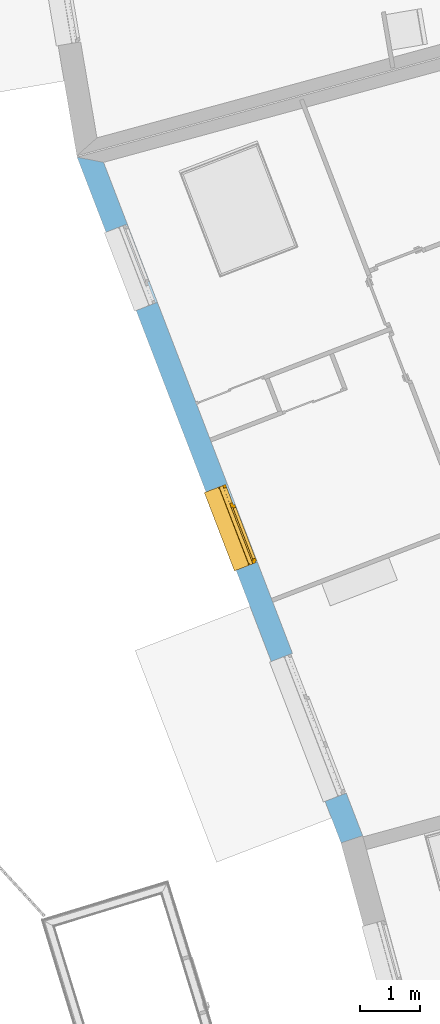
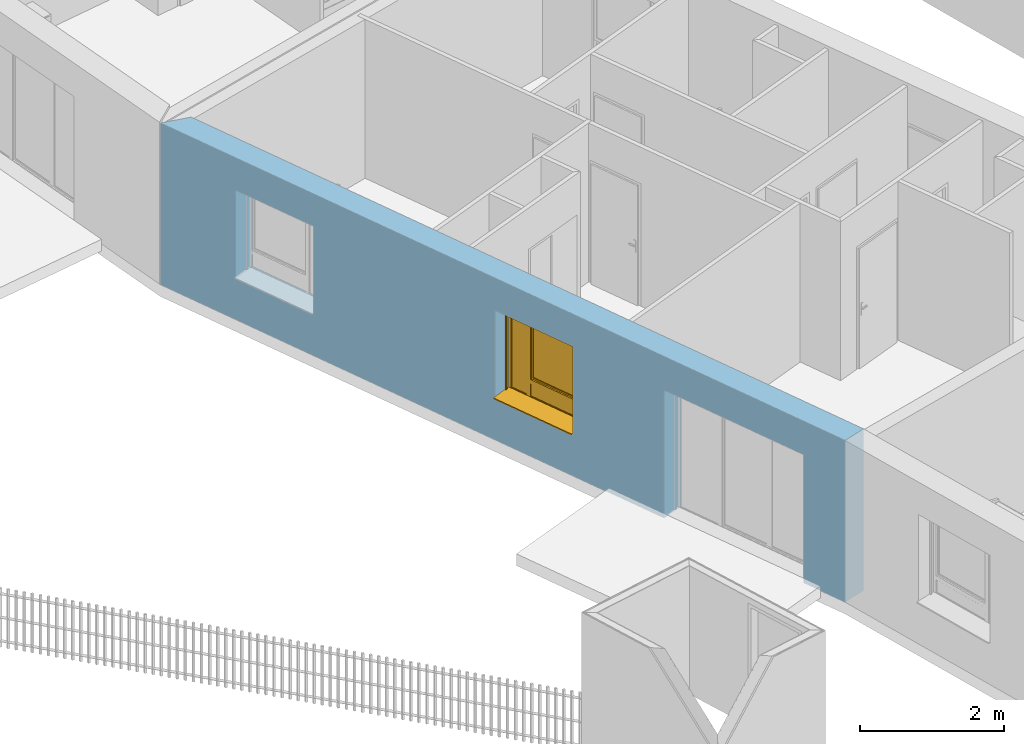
# One storey, part 75 of 195: 1 window, 3 openings, plus 1 element that does not belong to this part.
"""IFC2X3 building model written with IfcOpenShell, lengths in metres."""

from ifc_helpers import new_model, entity, si_unit, converted_unit, derived_unit, money_unit, direction, frame, origin_with_axes, place, context, subcontext, project, spatial, polyline, outline, extrude, open_shell, faceted_brep, surface_model, source, transform, mapped, material, layer, layer_set, layer_usage, type_object, element, fill, save


model = new_model("IFC2X3")

# Units and contexts
model_context = context("Model", 3, precision=1e-05, world=origin_with_axes(), true_north=direction((0.0, 1.0)))
body_context = subcontext(model_context, "Body", "Model", "MODEL_VIEW")
ifc_project = project(units=[si_unit("LENGTHUNIT", "METRE"), si_unit("AREAUNIT", "SQUARE_METRE"), si_unit("VOLUMEUNIT", "CUBIC_METRE"), converted_unit("PLANEANGLEUNIT", "DEGREE", entity("IfcPlaneAngleMeasure", 0.0174532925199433), si_unit("PLANEANGLEUNIT", "RADIAN"), dimensions=[0, 0, 0, 0, 0, 0, 0]), money_unit("CHF"), converted_unit("TIMEUNIT", "Year", entity("IfcTimeMeasure", 31557600.0), si_unit("TIMEUNIT", "SECOND"), dimensions=[0, 0, 1, 0, 0, 0, 0]), si_unit("MASSUNIT", "GRAM", prefix="KILO"), si_unit("THERMODYNAMICTEMPERATUREUNIT", "DEGREE_CELSIUS"), si_unit("LUMINOUSINTENSITYUNIT", "LUMEN"), si_unit("ENERGYUNIT", "JOULE", prefix="MEGA"), derived_unit("THERMALCONDUCTANCEUNIT", [(si_unit("POWERUNIT", "WATT"), 1), (si_unit("LENGTHUNIT", "METRE"), -1), (si_unit("THERMODYNAMICTEMPERATUREUNIT", "KELVIN"), -1)]), derived_unit("SPECIFICHEATCAPACITYUNIT", [(si_unit("ENERGYUNIT", "JOULE"), 1), (si_unit("MASSUNIT", "GRAM", prefix="KILO"), -1), (si_unit("THERMODYNAMICTEMPERATUREUNIT", "KELVIN"), -1)]), derived_unit("MASSDENSITYUNIT", [(si_unit("MASSUNIT", "GRAM", prefix="KILO"), 1), (si_unit("VOLUMEUNIT", "CUBIC_METRE"), -1)])], contexts=[model_context])

# Site, building, storey
site_placement = place(None, origin_with_axes())
site = spatial("IfcSite", under=ifc_project, at=site_placement, Name="Site", CompositionType="ELEMENT")
building_placement = place(site_placement, origin_with_axes())
building = spatial("IfcBuilding", under=site, at=building_placement, Name="Bâtiment", CompositionType="ELEMENT")
storey_placement = place(building_placement, origin_with_axes())
storey = spatial("IfcBuildingStorey", under=building, at=storey_placement, Name="rdc", CompositionType="ELEMENT", Elevation=0.0)

# Wall, openings, window
ifc_material_1 = material(Name="Parpaing 312445824")
ifc_layer_1 = layer(ifc_material_1, 0.22, ventilated="UNKNOWN")
ifc_material_2 = material(Name="Isolant styromousse 301821074")
ifc_layer_2 = layer(ifc_material_2, 0.16, ventilated="UNKNOWN")
ifc_layer_set = layer_set([ifc_layer_1, ifc_layer_2], Name="isol int 22+16 0836643197")
ifc_layer_usage = layer_usage(ifc_layer_set, "AXIS2", "POSITIVE", 0.0)
wall_type = type_object("IfcWallType", Name="isol int 22+16 0836643197 380", PredefinedType="NOTDEFINED")
wall_placement = place(storey_placement, frame((9581.97653269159, -1035.644242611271, 57.7), z_axis=(0.0, 0.0, 1.0), x_axis=(0.3591526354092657, -0.9332788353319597, 0.0)))
wall = element("IfcWallStandardCase", 1, at=wall_placement, inside=storey, type_object=wall_type, material=ifc_layer_usage, Name="Mur-113", context=body_context, shape_type="SweptSolid", body=[
    extrude(outline(polyline([(0.0, 0.0), (12.25544607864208, 0.0), (12.27474861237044, 0.3799999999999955), (0.2397397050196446, 0.3799999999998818), (0.0, 0.0)])), origin_with_axes(), (0.0, 0.0, 1.0), 2.75),
])
opening_1_placement = place(wall_placement, frame((2.041326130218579, 0.0, 0.7000000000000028), z_axis=(0.0, 0.0, 1.0), x_axis=(1.0, 0.0, 0.0)))
element("IfcOpeningElement", 2, at=opening_1_placement, cuts=wall, Name="Fen-045", context=body_context, shape_type="Brep", body=[
    faceted_brep([(-0.7000000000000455, 0.4799999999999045, 1.5), (0.6999999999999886, 0.4799999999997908, 1.5), (0.6999999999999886, 4.488897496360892, 1.5), (-0.6999999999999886, 4.488897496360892, 1.5), (-0.7000000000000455, 0.4799999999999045, 1.700000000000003), (0.6999999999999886, 0.4799999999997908, 1.700000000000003), (0.6999999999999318, 0.2999999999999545, 1.5), (0.6999999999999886, 0.2999999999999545, 0.0), (0.6999999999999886, 4.488897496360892, 0.0), (-0.6999999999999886, 4.488897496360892, 0.0), (-0.7000000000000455, 0.2999999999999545, 1.5), (-0.7000000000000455, 0.2999999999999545, 0.0), (-0.7000000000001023, 0.2199999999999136, 1.5), (-0.7000000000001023, 0.2199999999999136, 1.700000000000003), (0.6999999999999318, 0.2199999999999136, 1.700000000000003), (0.6999999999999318, 0.2199999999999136, 1.5), (0.6999999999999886, -4.108897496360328, 1.5), (0.6999999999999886, -4.108897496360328, 0.0), (-0.6999999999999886, -4.108897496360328, 0.0), (-0.6999999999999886, -4.108897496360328, 1.5)], [[[0, 1, 2, 3]], [[1, 0, 4, 5]], [[1, 6, 7, 8, 2]], [[2, 8, 9, 3]], [[10, 0, 3, 9, 11]], [[0, 10, 12, 13, 4]], [[14, 5, 4, 13]], [[6, 1, 5, 14, 15]], [[6, 15, 16, 17, 7]], [[7, 11, 9, 8]], [[12, 10, 11, 18, 19]], [[12, 15, 14, 13]], [[15, 12, 19, 16]], [[19, 18, 17, 16]], [[11, 7, 17, 18]]]),
])
opening_2_placement = place(wall_placement, frame((10.26361787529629, 0.0, 0.0), z_axis=(0.0, 0.0, 1.0), x_axis=(1.0, 0.0, 0.0)))
element("IfcOpeningElement", 3, at=opening_2_placement, cuts=wall, Name="Fen-045", context=body_context, shape_type="Brep", body=[
    faceted_brep([(-1.25, 0.4800000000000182, 2.18), (1.25, 0.4800000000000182, 2.18), (1.250000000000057, 4.488897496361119, 2.18), (-1.25, 4.488897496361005, 2.18), (-1.25, 0.4800000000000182, 2.380000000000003), (1.25, 0.4800000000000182, 2.380000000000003), (1.25, 0.3000000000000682, 2.18), (1.25, 0.3000000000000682, 0.0), (1.250000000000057, 4.488897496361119, 0.0), (-1.25, 4.488897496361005, 0.0), (-1.25, 0.3000000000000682, 2.18), (-1.25, 0.3000000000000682, 0.0), (-1.25, 0.2200000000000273, 2.18), (-1.25, 0.2200000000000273, 2.380000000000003), (1.25, 0.220000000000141, 2.380000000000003), (1.25, 0.220000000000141, 2.18), (1.25, -4.108897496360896, 2.18), (1.25, -4.108897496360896, 0.0), (-1.25, -4.108897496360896, 0.0), (-1.25, -4.108897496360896, 2.18)], [[[0, 1, 2, 3]], [[1, 0, 4, 5]], [[1, 6, 7, 8, 2]], [[2, 8, 9, 3]], [[10, 0, 3, 9, 11]], [[0, 10, 12, 13, 4]], [[4, 13, 14, 5]], [[6, 1, 5, 14, 15]], [[6, 15, 16, 17, 7]], [[7, 11, 9, 8]], [[12, 10, 11, 18, 19]], [[12, 15, 14, 13]], [[15, 12, 19, 16]], [[19, 18, 17, 16]], [[11, 7, 17, 18]]]),
])
opening_3_placement = place(wall_placement, frame((6.684094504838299, 0.0, 0.7000000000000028), z_axis=(0.0, 0.0, 1.0), x_axis=(1.0, 0.0, 0.0)))
opening_3 = element("IfcOpeningElement", 4, at=opening_3_placement, cuts=wall, Name="Fen-045", context=body_context, shape_type="Brep", body=[
    faceted_brep([(-0.6999999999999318, 0.4800000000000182, 1.5), (0.7000000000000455, 0.4800000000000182, 1.5), (0.7000000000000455, 4.488897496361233, 1.5), (-0.6999999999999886, 4.488897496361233, 1.5), (-0.6999999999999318, 0.4800000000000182, 1.700000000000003), (0.7000000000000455, 0.4800000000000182, 1.700000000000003), (0.6999999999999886, 0.3000000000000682, 1.5), (0.6999999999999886, 0.3000000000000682, 0.0), (0.7000000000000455, 4.488897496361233, 0.0), (-0.6999999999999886, 4.488897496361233, 0.0), (-0.6999999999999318, 0.2999999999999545, 1.5), (-0.6999999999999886, 0.2999999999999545, 0.0), (-0.6999999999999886, 0.2200000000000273, 1.5), (-0.6999999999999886, 0.2200000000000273, 1.700000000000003), (0.7000000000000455, 0.2200000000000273, 1.700000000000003), (0.7000000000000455, 0.2200000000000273, 1.5), (0.6999999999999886, -4.108897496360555, 1.5), (0.6999999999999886, -4.108897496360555, 0.0), (-0.6999999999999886, -4.108897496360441, 0.0), (-0.6999999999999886, -4.108897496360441, 1.5)], [[[0, 1, 2, 3]], [[1, 0, 4, 5]], [[1, 6, 7, 8, 2]], [[2, 8, 9, 3]], [[10, 0, 3, 9, 11]], [[0, 10, 12, 13, 4]], [[4, 13, 14, 5]], [[6, 1, 5, 14, 15]], [[6, 15, 16, 17, 7]], [[7, 11, 9, 8]], [[12, 10, 11, 18, 19]], [[12, 15, 14, 13]], [[15, 12, 19, 16]], [[19, 18, 17, 16]], [[11, 7, 17, 18]]]),
])
window_style = type_object("IfcWindowStyle", Name="Fenêtre variable 27", ConstructionType="NOTDEFINED", OperationType="TRIPLE_PANEL_LEFT", ParameterTakesPrecedence=False, Sizeable=False)
shared_shape = source(origin_with_axes(), body_context, "Body", "SurfaceModel", [
    surface_model("IfcShellBasedSurfaceModel", [(0.7, -0.05100000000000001, 0.05), (-0.7, -0.05100000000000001, 0.05000000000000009), (-0.7, -0.05100000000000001, 0.04000000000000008), (0.7, -0.05100000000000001, 0.04), (-0.7, -0.3799999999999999, 0.02900000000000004), (0.7, -0.3799999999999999, 0.02899999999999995), (-0.7, -0.3799999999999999, 0.00900000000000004), (0.7, -0.3799999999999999, 0.008999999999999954), (-0.7, -0.3699999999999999, 0.01900000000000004), (0.7, -0.3699999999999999, 0.01899999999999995)], [open_shell([[[0, 1, 2, 3]], [[3, 2, 4, 5]], [[5, 4, 6, 7]], [[7, 6, 8, 9]]])]),
    faceted_brep([(0.7, -0.13, 1.7), (0.7, 0.13, 1.7), (0.697, 0.13, 1.7), (0.697, -0.13, 1.7), (0.7, -0.13, 1.5), (0.7, 0.13, 1.5), (0.697, 0.13, 1.5), (0.697, -0.13, 1.5)], [[[0, 1, 2, 3]], [[0, 4, 5, 1]], [[1, 5, 6, 2]], [[3, 2, 6, 7]], [[4, 0, 3, 7]], [[5, 4, 7, 6]]]),
    faceted_brep([(-0.6970000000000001, -0.1299999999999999, 1.7), (-0.6970000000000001, 0.1300000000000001, 1.7), (-0.7000000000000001, 0.1300000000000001, 1.7), (-0.7000000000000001, -0.1299999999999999, 1.7), (-0.6970000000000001, -0.1299999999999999, 1.5), (-0.6970000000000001, 0.1300000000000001, 1.5), (-0.7000000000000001, 0.1300000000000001, 1.5), (-0.7000000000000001, -0.1299999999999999, 1.5)], [[[0, 1, 2, 3]], [[0, 4, 5, 1]], [[1, 5, 6, 2]], [[3, 2, 6, 7]], [[4, 0, 3, 7]], [[5, 4, 7, 6]]]),
    faceted_brep([(0.697, -0.13, 1.5), (0.697, -0.13, 1.7), (-0.697, -0.1299999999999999, 1.7), (-0.697, -0.1299999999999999, 1.5), (0.697, -0.127, 1.5), (0.697, -0.127, 1.697), (0.697, 0.127, 1.697), (0.697, 0.127, 1.503), (0.697, -0.108, 1.503), (0.697, -0.108, 1.5), (0.697, 0.13, 1.5), (0.697, 0.13, 1.7), (-0.697, 0.1300000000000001, 1.7), (-0.697, 0.1300000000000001, 1.5), (-0.697, -0.1079999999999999, 1.5), (-0.697, -0.1079999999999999, 1.503), (-0.697, 0.1270000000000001, 1.503), (-0.697, 0.1270000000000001, 1.697), (-0.697, -0.1269999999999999, 1.697), (-0.697, -0.1269999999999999, 1.5)], [[[0, 1, 2, 3]], [[0, 4, 5, 6, 7, 8, 9, 10, 11, 1]], [[1, 11, 12, 2]], [[3, 2, 12, 13, 14, 15, 16, 17, 18, 19]], [[4, 0, 3, 19]], [[5, 4, 19, 18]], [[6, 5, 18, 17]], [[7, 6, 17, 16]], [[8, 7, 16, 15]], [[9, 8, 15, 14]], [[10, 9, 14, 13]], [[11, 10, 13, 12]]]),
    faceted_brep([(0.694, -0.08075423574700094, 1.585760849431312), (0.694, -0.07705479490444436, 1.571954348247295), (0.694, -0.07101408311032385, 1.559), (0.694, -0.06281564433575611, 1.547291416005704), (0.694, -0.05270858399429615, 1.537184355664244), (0.694, -0.04099999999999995, 1.528985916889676), (0.694, -0.02804565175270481, 1.522945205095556), (0.694, -0.01423915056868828, 1.519245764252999), (0.694, 0.0, 1.518), (0.694, 0.01423915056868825, 1.519245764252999), (0.694, 0.02804565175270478, 1.522945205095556), (0.694, 0.04099999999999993, 1.528985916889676), (0.694, 0.05270858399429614, 1.537184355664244), (0.694, 0.06281564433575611, 1.547291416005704), (0.694, 0.07101408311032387, 1.559), (0.694, 0.07705479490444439, 1.571954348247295), (0.694, 0.08075423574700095, 1.585760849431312), (0.694, 0.0819999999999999, 1.6), (0.694, 0.08075423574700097, 1.614239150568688), (0.694, 0.0770547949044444, 1.628045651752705), (0.694, 0.07101408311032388, 1.641), (0.694, 0.06281564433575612, 1.652708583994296), (0.694, 0.05270858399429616, 1.662815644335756), (0.694, 0.04099999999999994, 1.671014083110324), (0.694, 0.02804565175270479, 1.677054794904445), (0.694, 0.01423915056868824, 1.680754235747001), (0.694, 0.0, 1.682), (0.694, -0.01423915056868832, 1.680754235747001), (0.694, -0.02804565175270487, 1.677054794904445), (0.694, -0.04100000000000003, 1.671014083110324), (0.694, -0.05270858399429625, 1.662815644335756), (0.694, -0.06281564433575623, 1.652708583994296), (0.694, -0.07101408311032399, 1.641), (0.694, -0.07705479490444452, 1.628045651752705), (0.694, -0.0807542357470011, 1.614239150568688), (0.694, -0.08200000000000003, 1.6), (-0.694, -0.08075423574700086, 1.585760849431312), (-0.694, -0.07705479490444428, 1.571954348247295), (-0.694, -0.07101408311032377, 1.559), (-0.694, -0.06281564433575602, 1.547291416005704), (-0.694, -0.05270858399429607, 1.537184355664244), (-0.694, -0.04099999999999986, 1.528985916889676), (-0.694, -0.02804565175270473, 1.522945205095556), (-0.694, -0.0142391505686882, 1.519245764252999), (-0.694, 0.0, 1.518), (-0.694, 0.01423915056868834, 1.519245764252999), (-0.694, 0.02804565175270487, 1.522945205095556), (-0.694, 0.04100000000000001, 1.528985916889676), (-0.694, 0.05270858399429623, 1.537184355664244), (-0.694, 0.06281564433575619, 1.547291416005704), (-0.694, 0.07101408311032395, 1.559), (-0.694, 0.07705479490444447, 1.571954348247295), (-0.694, 0.08075423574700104, 1.585760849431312), (-0.694, 0.08199999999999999, 1.6), (-0.694, 0.08075423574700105, 1.614239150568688), (-0.694, 0.07705479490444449, 1.628045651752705), (-0.694, 0.07101408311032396, 1.641), (-0.694, 0.0628156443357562, 1.652708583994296), (-0.694, 0.05270858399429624, 1.662815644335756), (-0.694, 0.04100000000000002, 1.671014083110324), (-0.694, 0.02804565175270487, 1.677054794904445), (-0.694, 0.01423915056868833, 1.680754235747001), (-0.694, 0.0, 1.682), (-0.694, -0.01423915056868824, 1.680754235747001), (-0.694, -0.02804565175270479, 1.677054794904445), (-0.694, -0.04099999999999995, 1.671014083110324), (-0.694, -0.05270858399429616, 1.662815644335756), (-0.694, -0.06281564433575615, 1.652708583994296), (-0.694, -0.07101408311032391, 1.641), (-0.694, -0.07705479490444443, 1.628045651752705), (-0.694, -0.08075423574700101, 1.614239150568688), (-0.694, -0.08199999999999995, 1.6)], [[[0, 1, 2, 3, 4, 5, 6, 7, 8, 9, 10, 11, 12, 13, 14, 15, 16, 17, 18, 19, 20, 21, 22, 23, 24, 25, 26, 27, 28, 29, 30, 31, 32, 33, 34, 35]], [[1, 0, 36, 37]], [[2, 1, 37, 38]], [[3, 2, 38, 39]], [[4, 3, 39, 40]], [[5, 4, 40, 41]], [[6, 5, 41, 42]], [[7, 6, 42, 43]], [[8, 7, 43, 44]], [[9, 8, 44, 45]], [[10, 9, 45, 46]], [[11, 10, 46, 47]], [[12, 11, 47, 48]], [[13, 12, 48, 49]], [[14, 13, 49, 50]], [[15, 14, 50, 51]], [[16, 15, 51, 52]], [[17, 16, 52, 53]], [[18, 17, 53, 54]], [[19, 18, 54, 55]], [[20, 19, 55, 56]], [[21, 20, 56, 57]], [[22, 21, 57, 58]], [[23, 22, 58, 59]], [[24, 23, 59, 60]], [[25, 24, 60, 61]], [[26, 25, 61, 62]], [[27, 26, 62, 63]], [[28, 27, 63, 64]], [[29, 28, 64, 65]], [[30, 29, 65, 66]], [[31, 30, 66, 67]], [[32, 31, 67, 68]], [[33, 32, 68, 69]], [[34, 33, 69, 70]], [[35, 34, 70, 71]], [[0, 35, 71, 36]], [[36, 71, 70, 69, 68, 67, 66, 65, 64, 63, 62, 61, 60, 59, 58, 57, 56, 55, 54, 53, 52, 51, 50, 49, 48, 47, 46, 45, 44, 43, 42, 41, 40, 39, 38, 37]]]),
    faceted_brep([(-0.7, -0.105, 0.03), (-0.7, -0.13, 0.03), (-0.7, -0.1299999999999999, 1.5), (-0.7, -0.1049999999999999, 1.5), (-0.6749999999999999, -0.105, 0.03), (-0.6749999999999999, -0.108, 0.03), (-0.697, -0.108, 0.03), (-0.697, -0.127, 0.03), (-0.6749999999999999, -0.127, 0.03), (-0.6749999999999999, -0.13, 0.03), (-0.6749999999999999, -0.1299999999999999, 1.5), (-0.6749999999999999, -0.1269999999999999, 1.5), (-0.697, -0.1269999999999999, 1.5), (-0.697, -0.1079999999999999, 1.5), (-0.6749999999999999, -0.1079999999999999, 1.5), (-0.6749999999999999, -0.1049999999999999, 1.5)], [[[0, 1, 2, 3]], [[0, 4, 5, 6, 7, 8, 9, 1]], [[1, 9, 10, 2]], [[3, 2, 10, 11, 12, 13, 14, 15]], [[4, 0, 3, 15]], [[5, 4, 15, 14]], [[6, 5, 14, 13]], [[7, 6, 13, 12]], [[8, 7, 12, 11]], [[9, 8, 11, 10]]]),
    faceted_brep([(0.7, -0.105, 0.03), (0.7, -0.1049999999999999, 1.5), (0.7, -0.1299999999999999, 1.5), (0.7, -0.13, 0.03), (0.6749999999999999, -0.105, 0.03), (0.6749999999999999, -0.1049999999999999, 1.5), (0.6749999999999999, -0.1079999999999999, 1.5), (0.697, -0.1079999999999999, 1.5), (0.697, -0.1269999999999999, 1.5), (0.6749999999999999, -0.1269999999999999, 1.5), (0.6749999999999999, -0.1299999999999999, 1.5), (0.6749999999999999, -0.13, 0.03), (0.6749999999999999, -0.127, 0.03), (0.697, -0.127, 0.03), (0.697, -0.108, 0.03), (0.6749999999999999, -0.108, 0.03)], [[[0, 1, 2, 3]], [[4, 5, 1, 0]], [[1, 5, 6, 7, 8, 9, 10, 2]], [[3, 2, 10, 11]], [[0, 3, 11, 12, 13, 14, 15, 4]], [[15, 6, 5, 4]], [[14, 7, 6, 15]], [[13, 8, 7, 14]], [[12, 9, 8, 13]], [[11, 10, 9, 12]]]),
    surface_model("IfcShellBasedSurfaceModel", [(0.697, -0.115, 1.6), (-0.697, -0.1149999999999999, 1.6), (-0.697, -0.12, 1.6), (0.697, -0.12, 1.6), (0.697, -0.115, 1.6), (0.697, -0.12, 1.6), (-0.697, -0.1199999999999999, 1.6), (-0.697, -0.1149999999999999, 1.6)], [open_shell([[[0, 1, 2, 3]], [[4, 5, 6, 7]]])]),
    faceted_brep([(0.697, -0.115, 1.6), (0.697, -0.1166666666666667, 1.583333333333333), (-0.697, -0.1166666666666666, 1.583333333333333), (-0.697, -0.1149999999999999, 1.6), (0.697, -0.12, 1.6), (0.697, -0.1216666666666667, 1.583333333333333), (0.697, -0.1216666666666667, 1.566666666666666), (0.697, -0.12, 1.55), (0.697, -0.115, 1.55), (0.697, -0.1166666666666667, 1.566666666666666), (-0.697, -0.1166666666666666, 1.566666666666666), (-0.697, -0.1149999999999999, 1.55), (-0.697, -0.1199999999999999, 1.55), (-0.697, -0.1216666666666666, 1.566666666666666), (-0.697, -0.1216666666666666, 1.583333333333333), (-0.697, -0.1199999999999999, 1.6)], [[[0, 1, 2, 3]], [[0, 4, 5, 6, 7, 8, 9, 1]], [[1, 9, 10, 2]], [[3, 2, 10, 11, 12, 13, 14, 15]], [[4, 0, 3, 15]], [[5, 4, 15, 14]], [[6, 5, 14, 13]], [[7, 6, 13, 12]], [[8, 7, 12, 11]], [[9, 8, 11, 10]]]),
    faceted_brep([(0.697, -0.115, 1.55), (0.697, -0.1166666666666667, 1.533333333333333), (-0.697, -0.1166666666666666, 1.533333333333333), (-0.697, -0.1149999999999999, 1.55), (0.697, -0.12, 1.55), (0.697, -0.1216666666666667, 1.533333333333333), (0.697, -0.1216666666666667, 1.516666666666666), (0.697, -0.12, 1.5), (0.697, -0.115, 1.5), (0.697, -0.1166666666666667, 1.516666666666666), (-0.697, -0.1166666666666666, 1.516666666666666), (-0.697, -0.1149999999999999, 1.5), (-0.697, -0.1199999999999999, 1.5), (-0.697, -0.1216666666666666, 1.516666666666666), (-0.697, -0.1216666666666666, 1.533333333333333), (-0.697, -0.1199999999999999, 1.55)], [[[0, 1, 2, 3]], [[0, 4, 5, 6, 7, 8, 9, 1]], [[1, 9, 10, 2]], [[3, 2, 10, 11, 12, 13, 14, 15]], [[4, 0, 3, 15]], [[5, 4, 15, 14]], [[6, 5, 14, 13]], [[7, 6, 13, 12]], [[8, 7, 12, 11]], [[9, 8, 11, 10]]]),
    faceted_brep([(0.6749999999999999, 0.0, 1.45), (0.6749999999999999, -0.02500000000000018, 1.45), (0.6499999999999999, -0.02500000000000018, 1.45), (0.6499999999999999, -0.05000000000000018, 1.45), (0.7, -0.05000000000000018, 1.45), (0.7, 0.0, 1.45), (0.6749999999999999, 0.0, 0.3099999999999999), (0.6749999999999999, -0.02500000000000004, 0.3099999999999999), (0.6499999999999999, -0.02500000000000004, 0.335), (0.6499999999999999, -0.02500000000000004, 0.3099999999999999), (0.6499999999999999, -0.05000000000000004, 0.335), (0.6499999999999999, -0.05000000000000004, 0.265), (0.6499999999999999, -0.05000000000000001, 0.05000000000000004), (0.7, -0.05000000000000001, 0.05000000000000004), (0.7, 0.0, 0.05000000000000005), (0.6499999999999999, 0.0, 0.05000000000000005), (0.6499999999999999, 0.0, 0.265), (0.6499999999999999, 0.0, 0.3099999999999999)], [[[0, 1, 2, 3, 4, 5]], [[1, 0, 6, 7]], [[8, 2, 1, 7, 9]], [[2, 8, 10, 3]], [[10, 11, 12, 13, 4, 3]], [[5, 4, 13, 14]], [[6, 0, 5, 14, 15, 16, 17]], [[6, 17, 9, 7]], [[9, 17, 16, 11, 10, 8]], [[15, 12, 11, 16]], [[14, 13, 12, 15]]]),
    faceted_brep([(-0.3068894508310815, -0.02500000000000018, 1.45), (-0.3318894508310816, -0.02500000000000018, 1.45), (-0.3318894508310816, 0.0, 1.45), (-0.3768894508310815, 0.0, 1.45), (-0.3768894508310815, -0.05000000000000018, 1.45), (-0.3068894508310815, -0.05000000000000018, 1.45), (-0.3068894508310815, -0.02500000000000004, 0.335), (-0.3068894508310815, -0.02500000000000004, 0.3099999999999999), (-0.3318894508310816, -0.02500000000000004, 0.3099999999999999), (-0.3318894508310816, 0.0, 0.3099999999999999), (-0.3068894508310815, 0.0, 0.3099999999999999), (-0.3068894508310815, 0.0, 0.265), (-0.3068894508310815, 0.0, 0.05000000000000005), (-0.3768894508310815, 0.0, 0.05000000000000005), (-0.3768894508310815, -0.05000000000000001, 0.05000000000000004), (-0.3068894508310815, -0.05000000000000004, 0.265), (-0.3068894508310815, -0.05000000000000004, 0.335), (-0.3068894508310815, -0.05000000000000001, 0.05000000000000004)], [[[0, 1, 2, 3, 4, 5]], [[1, 0, 6, 7, 8]], [[9, 2, 1, 8]], [[9, 10, 11, 12, 13, 3, 2]], [[13, 14, 4, 3]], [[15, 16, 5, 4, 14, 17]], [[6, 0, 5, 16]], [[7, 6, 16, 15, 11, 10]], [[10, 9, 8, 7]], [[11, 15, 17, 12]], [[12, 17, 14, 13]]]),
    faceted_brep([(0.6499999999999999, -0.02500000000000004, 0.335), (-0.3068894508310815, -0.02500000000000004, 0.335), (-0.3068894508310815, -0.05000000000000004, 0.335), (0.6499999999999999, -0.05000000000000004, 0.335), (-0.3068894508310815, -0.02500000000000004, 0.3099999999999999), (0.6499999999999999, -0.02500000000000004, 0.3099999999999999), (-0.3068894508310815, 0.0, 0.3099999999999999), (-0.3068894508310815, 0.0, 0.265), (-0.3068894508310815, -0.05000000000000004, 0.265), (0.6499999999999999, -0.05000000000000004, 0.265), (0.6499999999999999, 0.0, 0.265), (0.6499999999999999, 0.0, 0.3099999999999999)], [[[0, 1, 2, 3]], [[4, 1, 0, 5]], [[4, 6, 7, 8, 2, 1]], [[2, 8, 9, 3]], [[5, 0, 3, 9, 10, 11]], [[11, 6, 4, 5]], [[6, 11, 10, 7]], [[10, 9, 8, 7]]]),
    faceted_brep([(0.6749999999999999, 0.0, 1.45), (0.6749999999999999, 0.0, 1.475), (-0.3318894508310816, 0.0, 1.475), (-0.3318894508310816, 0.0, 1.45), (-0.3768894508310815, 0.0, 1.45), (-0.6499999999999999, 0.0, 1.45), (-0.7, 0.0, 1.45), (-0.7, 0.0, 1.5), (0.7, 0.0, 1.5), (0.7, 0.0, 1.45), (0.6749999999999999, -0.02500000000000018, 1.45), (0.6749999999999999, -0.02500000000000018, 1.475), (-0.3318894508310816, -0.02500000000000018, 1.475), (-0.3318894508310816, -0.02500000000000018, 1.45), (-0.3068894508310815, -0.02500000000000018, 1.45), (-0.3068894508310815, -0.05000000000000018, 1.45), (-0.3768894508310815, -0.05000000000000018, 1.45), (-0.6499999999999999, -0.05000000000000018, 1.45), (-0.7, -0.05000000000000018, 1.45), (-0.7, -0.05000000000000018, 1.5), (0.7, -0.05000000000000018, 1.5), (0.7, -0.05000000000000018, 1.45), (0.6499999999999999, -0.05000000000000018, 1.45), (0.6499999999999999, -0.02500000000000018, 1.45)], [[[0, 1, 2, 3, 4, 5, 6, 7, 8, 9]], [[1, 0, 10, 11]], [[2, 1, 11, 12]], [[3, 2, 12, 13]], [[13, 14, 15, 16, 4, 3]], [[4, 16, 17, 5]], [[5, 17, 18, 6]], [[6, 18, 19, 7]], [[7, 19, 20, 8]], [[8, 20, 21, 9]], [[10, 0, 9, 21, 22, 23]], [[14, 13, 12, 11, 10, 23]], [[14, 23, 22, 15]], [[16, 15, 22, 21, 20, 19, 18, 17]]]),
    faceted_brep([(-0.6499999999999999, -0.05000000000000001, 0.05), (-0.7, -0.05000000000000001, 0.05), (-0.7, 0.0, 0.05000000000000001), (-0.6499999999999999, 0.0, 0.05000000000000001), (-0.6499999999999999, -0.05000000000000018, 1.45), (-0.7, -0.05000000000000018, 1.45), (-0.7, 0.0, 1.45), (-0.6499999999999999, 0.0, 1.45)], [[[0, 1, 2, 3]], [[0, 4, 5, 1]], [[1, 5, 6, 2]], [[3, 2, 6, 7]], [[4, 0, 3, 7]], [[5, 4, 7, 6]]]),
    faceted_brep([(0.6499999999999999, -0.05000000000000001, 0.05), (0.7, -0.05000000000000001, 0.05), (0.7, 0.0, 0.05000000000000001), (0.6499999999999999, 0.0, 0.05000000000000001), (-0.3068894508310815, -0.05000000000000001, 0.05), (-0.3768894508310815, -0.05000000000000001, 0.05), (-0.6499999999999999, -0.05000000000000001, 0.05), (-0.7, -0.05000000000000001, 0.05), (-0.7, -0.05, 0.0), (0.7, -0.05, 0.0), (0.7, 0.0, 0.0), (-0.7, 0.0, 0.0), (-0.7, 0.0, 0.05000000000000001), (-0.6499999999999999, 0.0, 0.05000000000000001), (-0.3768894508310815, 0.0, 0.05000000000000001), (-0.3068894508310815, 0.0, 0.05000000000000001)], [[[0, 1, 2, 3]], [[0, 4, 5, 6, 7, 8, 9, 1]], [[1, 9, 10, 2]], [[3, 2, 10, 11, 12, 13, 14, 15]], [[4, 0, 3, 15]], [[5, 4, 15, 14]], [[6, 5, 14, 13]], [[7, 6, 13, 12]], [[8, 7, 12, 11]], [[9, 8, 11, 10]]]),
    faceted_brep([(0.625, -0.02500000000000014, 1.425), (0.6749999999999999, -0.02500000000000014, 1.425), (0.6749999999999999, 0.02499999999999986, 1.425), (0.625, 0.02499999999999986, 1.425), (0.625, -0.02500000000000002, 0.3599999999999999), (0.6749999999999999, -0.02500000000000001, 0.3599999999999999), (0.6749999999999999, 0.02499999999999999, 0.3599999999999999), (0.625, 0.02499999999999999, 0.3599999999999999)], [[[0, 1, 2, 3]], [[0, 4, 5, 1]], [[1, 5, 6, 2]], [[3, 2, 6, 7]], [[4, 0, 3, 7]], [[5, 4, 7, 6]]]),
    faceted_brep([(-0.2818894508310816, -0.02500000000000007, 0.3599999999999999), (-0.3318894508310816, -0.02500000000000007, 0.3599999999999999), (-0.3318894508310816, 0.02499999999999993, 0.3599999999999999), (-0.2818894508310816, 0.02499999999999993, 0.3599999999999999), (-0.2818894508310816, -0.0250000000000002, 1.425), (-0.3318894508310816, -0.0250000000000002, 1.425), (-0.3318894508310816, 0.0249999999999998, 1.425), (-0.2818894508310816, 0.0249999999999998, 1.425)], [[[0, 1, 2, 3]], [[0, 4, 5, 1]], [[1, 5, 6, 2]], [[3, 2, 6, 7]], [[4, 0, 3, 7]], [[5, 4, 7, 6]]]),
    faceted_brep([(-0.3318894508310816, -0.02500000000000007, 0.3099999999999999), (-0.3318894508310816, -0.02500000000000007, 0.3599999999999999), (-0.3318894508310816, 0.02499999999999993, 0.3599999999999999), (-0.3318894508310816, 0.02499999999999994, 0.3099999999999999), (0.6749999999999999, -0.025, 0.3099999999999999), (0.6749999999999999, -0.02500000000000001, 0.3599999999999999), (0.625, -0.02500000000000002, 0.3599999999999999), (-0.2818894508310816, -0.02500000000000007, 0.3599999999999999), (-0.2818894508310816, 0.02499999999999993, 0.3599999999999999), (0.625, 0.02499999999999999, 0.3599999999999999), (0.6749999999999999, 0.02499999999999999, 0.3599999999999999), (0.6749999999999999, 0.02499999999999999, 0.3099999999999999)], [[[0, 1, 2, 3]], [[0, 4, 5, 6, 7, 1]], [[1, 7, 8, 2]], [[3, 2, 8, 9, 10, 11]], [[4, 0, 3, 11]], [[5, 4, 11, 10]], [[6, 5, 10, 9]], [[7, 6, 9, 8]]]),
    faceted_brep([(0.6749999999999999, -0.02500000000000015, 1.475), (0.6749999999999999, -0.02500000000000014, 1.425), (0.6749999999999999, 0.02499999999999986, 1.425), (0.6749999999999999, 0.02499999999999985, 1.475), (-0.3318894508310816, -0.02500000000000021, 1.475), (-0.3318894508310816, -0.0250000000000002, 1.425), (-0.2818894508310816, -0.0250000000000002, 1.425), (0.625, -0.02500000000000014, 1.425), (0.625, 0.02499999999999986, 1.425), (-0.2818894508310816, 0.0249999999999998, 1.425), (-0.3318894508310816, 0.0249999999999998, 1.425), (-0.3318894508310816, 0.02499999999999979, 1.475)], [[[0, 1, 2, 3]], [[0, 4, 5, 6, 7, 1]], [[1, 7, 8, 2]], [[3, 2, 8, 9, 10, 11]], [[4, 0, 3, 11]], [[5, 4, 11, 10]], [[6, 5, 10, 9]], [[7, 6, 9, 8]]]),
    surface_model("IfcShellBasedSurfaceModel", [(0.625, -0.01000000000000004, 0.3599999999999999), (0.625, -0.01000000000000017, 1.425), (-0.2818894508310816, -0.01000000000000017, 1.425), (-0.2818894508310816, -0.01000000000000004, 0.3599999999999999)], [open_shell([[[0, 1, 2, 3]]])]),
    surface_model("IfcShellBasedSurfaceModel", [(0.625, 0.009999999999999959, 0.3599999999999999), (-0.2818894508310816, 0.009999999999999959, 0.3599999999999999), (-0.2818894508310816, 0.00999999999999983, 1.425), (0.625, 0.00999999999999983, 1.425)], [open_shell([[[0, 1, 2, 3]]])]),
    surface_model("IfcShellBasedSurfaceModel", [(-0.3768894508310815, -0.035, 0.05), (-0.3768894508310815, -0.03500000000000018, 1.45), (-0.65, -0.03500000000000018, 1.45), (-0.65, -0.035, 0.05)], [open_shell([[[0, 1, 2, 3]]])]),
    surface_model("IfcShellBasedSurfaceModel", [(-0.3768894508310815, -0.015, 0.05), (-0.65, -0.015, 0.05), (-0.65, -0.01500000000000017, 1.45), (-0.3768894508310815, -0.01500000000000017, 1.45)], [open_shell([[[0, 1, 2, 3]]])]),
    surface_model("IfcShellBasedSurfaceModel", [(0.6499999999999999, -0.035, 0.05), (0.6499999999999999, -0.03500000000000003, 0.265), (-0.3068894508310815, -0.03500000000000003, 0.265), (-0.3068894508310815, -0.035, 0.05)], [open_shell([[[0, 1, 2, 3]]])]),
    surface_model("IfcShellBasedSurfaceModel", [(0.6499999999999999, -0.015, 0.05), (-0.3068894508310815, -0.015, 0.05), (-0.3068894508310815, -0.01500000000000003, 0.265), (0.6499999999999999, -0.01500000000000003, 0.265)], [open_shell([[[0, 1, 2, 3]]])]),
])
window_placement = place(opening_3_placement, frame((-0.7000000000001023, 0.0, 0.0), z_axis=(0.0, 0.0, 1.0), x_axis=(1.0, 0.0, 0.0)))
window = element("IfcWindow", 5, at=window_placement, inside=storey, type_object=window_style, Name="Fen-045", OverallHeight=1.5, OverallWidth=1.4, context=body_context, shape_type="MappedRepresentation", body=[
    mapped(shared_shape, transform((0.6999999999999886, 0.3499999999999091, 0.0))),
])
fill(opening_3, window)

save(model, "model.ifc")
